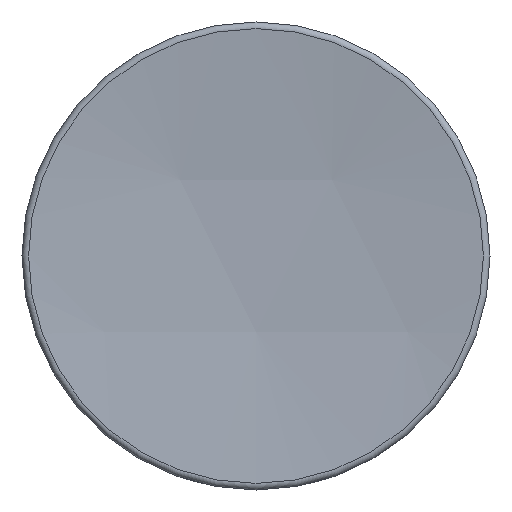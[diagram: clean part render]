
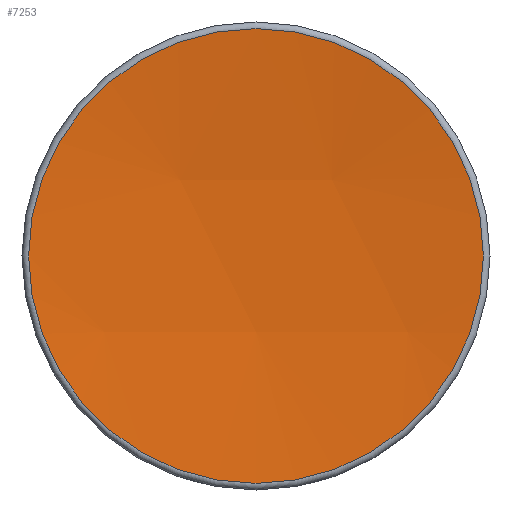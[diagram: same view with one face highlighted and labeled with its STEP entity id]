
A CAD part, front view. The second image highlights one B-rep face of the part: STEP entity #7253.
In plain terms, the highlighted spherical face has radius 600 mm.
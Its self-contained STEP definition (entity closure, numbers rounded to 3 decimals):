
#21=SPHERICAL_SURFACE('',#8224,600.);
#949=CIRCLE('',#8221,77.741);
#950=CIRCLE('',#8222,77.741);
#1481=FACE_OUTER_BOUND('',#1990,.T.);
#1990=EDGE_LOOP('',(#6304,#6305));
#3281=VERTEX_POINT('',#15344);
#3282=VERTEX_POINT('',#15345);
#4289=EDGE_CURVE('',#3281,#3282,#949,.T.);
#4290=EDGE_CURVE('',#3282,#3281,#950,.T.);
#6304=ORIENTED_EDGE('',*,*,#4289,.T.);
#6305=ORIENTED_EDGE('',*,*,#4290,.T.);
#7253=ADVANCED_FACE('',(#1481),#21,.F.);
#8221=AXIS2_PLACEMENT_3D('',#15346,#10357,#10358);
#8222=AXIS2_PLACEMENT_3D('',#15347,#10359,#10360);
#8224=AXIS2_PLACEMENT_3D('',#15349,#10363,#10364);
#10357=DIRECTION('center_axis',(0.,-1.,0.));
#10358=DIRECTION('ref_axis',(-1.,0.,0.));
#10359=DIRECTION('center_axis',(0.,-1.,0.));
#10360=DIRECTION('ref_axis',(-1.,0.,0.));
#10363=DIRECTION('center_axis',(0.,0.,
1.));
#10364=DIRECTION('ref_axis',(-1.,0.,0.));
#15344=CARTESIAN_POINT('',(0.,-198.633,77.741));
#15345=CARTESIAN_POINT('',(0.,-198.633,-77.741));
#15346=CARTESIAN_POINT('Origin',(0.,-198.633,
0.));
#15347=CARTESIAN_POINT('Origin',(0.,-198.633,
0.));
#15349=CARTESIAN_POINT('Origin',(0.,-793.575,
0.));
